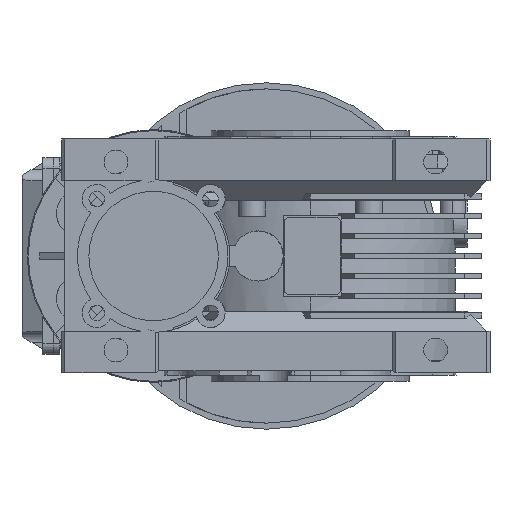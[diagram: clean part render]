
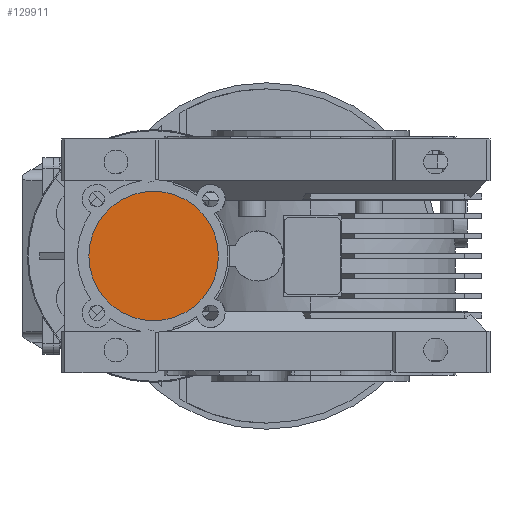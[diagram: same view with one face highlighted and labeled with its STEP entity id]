
A CAD part, left-side view. The second image highlights one B-rep face of the part: STEP entity #129911.
In plain terms, the highlighted planar face has unit normal (-1, 0, 0).
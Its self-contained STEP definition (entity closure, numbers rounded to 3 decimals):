
#1465 = CIRCLE ( 'NONE', #45255, 31. ) ;
#1749 = CIRCLE ( 'NONE', #45260, 31. ) ;
#12077 = VERTEX_POINT ( 'NONE', #125048 ) ;
#12096 = VERTEX_POINT ( 'NONE', #125047 ) ;
#19929 = CARTESIAN_POINT ( 'NONE',  ( -84.51, 75., 0. ) ) ;
#19930 = DIRECTION ( 'NONE',  ( -1., 0., 0. ) ) ;
#19931 = DIRECTION ( 'NONE',  ( 0., 0., 1. ) ) ;
#20027 = CARTESIAN_POINT ( 'NONE',  ( -84.51, 75., 0. ) ) ;
#20028 = DIRECTION ( 'NONE',  ( -1., 0., 0. ) ) ;
#20029 = DIRECTION ( 'NONE',  ( 0., 0., 1. ) ) ;
#24789 = ORIENTED_EDGE ( 'NONE', *, *, #68549, .T. ) ;
#24790 = ORIENTED_EDGE ( 'NONE', *, *, #68462, .T. ) ;
#45255 = AXIS2_PLACEMENT_3D ( 'NONE', #19929, #19930, #19931 ) ;
#45260 = AXIS2_PLACEMENT_3D ( 'NONE', #20027, #20028, #20029 ) ;
#68462 = EDGE_CURVE ( 'NONE', #12096, #12077, #1465, .T. ) ;
#68549 = EDGE_CURVE ( 'NONE', #12077, #12096, #1749, .T. ) ;
#76791 = EDGE_LOOP ( 'NONE', ( #24789, #24790 ) ) ;
#121333 = PLANE ( 'NONE',  #130967 ) ;
#121398 = CARTESIAN_POINT ( 'NONE',  ( -84.51, 90.5, 0. ) ) ;
#121400 = DIRECTION ( 'NONE',  ( 1., 0., 0. ) ) ;
#121403 = DIRECTION ( 'NONE',  ( 0., 0., -1. ) ) ;
#123122 = FACE_OUTER_BOUND ( 'NONE', #76791, .T. ) ;
#125047 = CARTESIAN_POINT ( 'NONE',  ( -84.51, 75., -31. ) ) ;
#125048 = CARTESIAN_POINT ( 'NONE',  ( -84.51, 75., 31. ) ) ;
#129911 = ADVANCED_FACE ( 'NONE', ( #123122 ), #121333, .F. ) ;
#130967 = AXIS2_PLACEMENT_3D ( 'NONE', #121398, #121400, #121403 ) ;
